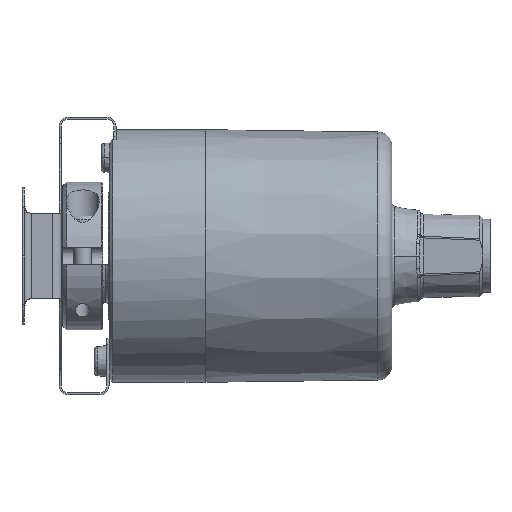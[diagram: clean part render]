
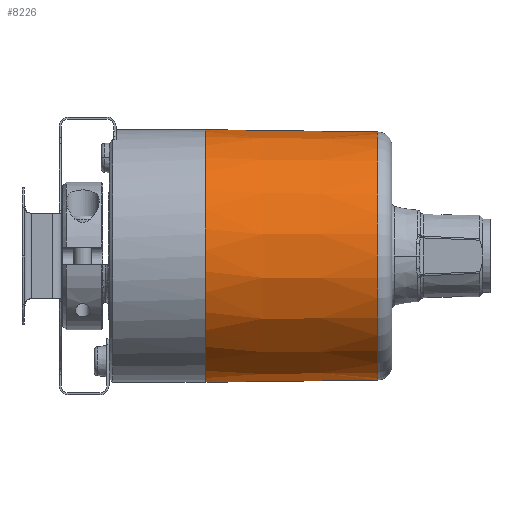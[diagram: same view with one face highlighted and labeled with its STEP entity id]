
A CAD part, front view. The second image highlights one B-rep face of the part: STEP entity #8226.
In plain terms, the highlighted conical face has half-angle 0.75 degrees and reference radius 18 mm.
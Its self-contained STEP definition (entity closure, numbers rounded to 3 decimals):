
#624 = CARTESIAN_POINT ( 'NONE',  ( 38.326, 0., 0. ) ) ;
#1559 = CARTESIAN_POINT ( 'NONE',  ( 15.487, -0.805, -17.959 ) ) ;
#2635 = VERTEX_POINT ( 'NONE', #22872 ) ;
#2730 = DIRECTION ( 'NONE',  ( 0., 0., -1. ) ) ;
#3554 = CARTESIAN_POINT ( 'NONE',  ( 15.85, 0., -17.972 ) ) ;
#3586 = CARTESIAN_POINT ( 'NONE',  ( 14.892, -1.046, -17.954 ) ) ;
#3675 = CARTESIAN_POINT ( 'NONE',  ( 15.732, -0.501, -17.967 ) ) ;
#4021 = CARTESIAN_POINT ( 'NONE',  ( 13.7, 0., 18. ) ) ;
#4261 = EDGE_CURVE ( 'NONE', #24803, #24789, #21581, .T. ) ;
#4557 = CARTESIAN_POINT ( 'NONE',  ( 14.171, -1.18, -17.955 ) ) ;
#5087 = VECTOR ( 'NONE', #11277, 1000. ) ;
#5123 = AXIS2_PLACEMENT_3D ( 'NONE', #10702, #6637, #18998 ) ;
#5557 = DIRECTION ( 'NONE',  ( 1., 0., 0. ) ) ;
#5577 = EDGE_CURVE ( 'NONE', #26195, #2635, #17426, .T. ) ;
#5599 = VECTOR ( 'NONE', #16420, 1000. ) ;
#5783 = CARTESIAN_POINT ( 'NONE',  ( 15.85, -0.129, -17.972 ) ) ;
#6250 = B_SPLINE_CURVE_WITH_KNOTS ( 'NONE', 3,
 ( #16298, #22557, #10170, #24651 ),
 .UNSPECIFIED., .F., .F.,
 ( 4, 4 ),
 ( 0., 0. ),
 .UNSPECIFIED. ) ;
#6637 = DIRECTION ( 'NONE',  ( -1., 0., 0. ) ) ;
#6787 = CARTESIAN_POINT ( 'NONE',  ( 14.713, -1.062, -17.955 ) ) ;
#6935 = CARTESIAN_POINT ( 'NONE',  ( 13.7, 0., -18. ) ) ;
#7387 = CARTESIAN_POINT ( 'NONE',  ( 13.7, 0., 18. ) ) ;
#8036 = VERTEX_POINT ( 'NONE', #22349 ) ;
#8226 = ADVANCED_FACE ( 'NONE', ( #25350 ), #13650, .T. ) ;
#8540 = EDGE_CURVE ( 'NONE', #24150, #24789, #12392, .T. ) ;
#10170 = CARTESIAN_POINT ( 'NONE',  ( 14.286, -1.099, -17.959 ) ) ;
#10702 = CARTESIAN_POINT ( 'NONE',  ( 13.7, 0., 0. ) ) ;
#10738 = CARTESIAN_POINT ( 'NONE',  ( 13.7, -1.65, -17.924 ) ) ;
#11239 = EDGE_CURVE ( 'NONE', #14424, #24150, #17197, .T. ) ;
#11277 = DIRECTION ( 'NONE',  ( -1., 0., -0.013 ) ) ;
#11723 = ORIENTED_EDGE ( 'NONE', *, *, #17179, .T. ) ;
#11938 = CARTESIAN_POINT ( 'NONE',  ( 15.022, -1.035, -17.953 ) ) ;
#12392 = B_SPLINE_CURVE_WITH_KNOTS ( 'NONE', 3,
 ( #3586, #11938, #26429, #13994, #1559, #16065, #3675, #18152, #5783, #20249 ),
 .UNSPECIFIED., .F., .F.,
 ( 4, 2, 2, 2, 4 ),
 ( 0., 0., 0.001, 0.001, 0.002 ),
 .UNSPECIFIED. ) ;
#12519 = CIRCLE ( 'NONE', #21406, 17.678 ) ;
#12920 = CARTESIAN_POINT ( 'NONE',  ( 14.357, -1.093, -17.958 ) ) ;
#13650 = CONICAL_SURFACE ( 'NONE', #5123, 18., 0.013 ) ;
#13957 = CARTESIAN_POINT ( 'NONE',  ( 38.326, 0., -17.678 ) ) ;
#13994 = CARTESIAN_POINT ( 'NONE',  ( 15.382, -0.884, -17.956 ) ) ;
#14424 = VERTEX_POINT ( 'NONE', #22044 ) ;
#14975 = CARTESIAN_POINT ( 'NONE',  ( 14.535, -1.077, -17.957 ) ) ;
#15137 = DIRECTION ( 'NONE',  ( -1., 0., 0. ) ) ;
#15285 = LINE ( 'NONE', #4021, #5599 ) ;
#15323 = AXIS2_PLACEMENT_3D ( 'NONE', #17925, #5557, #20019 ) ;
#15387 = EDGE_CURVE ( 'NONE', #24803, #8036, #12519, .T. ) ;
#15573 = EDGE_CURVE ( 'NONE', #16961, #26195, #23846, .T. ) ;
#16065 = CARTESIAN_POINT ( 'NONE',  ( 15.662, -0.613, -17.964 ) ) ;
#16155 = ORIENTED_EDGE ( 'NONE', *, *, #23771, .T. ) ;
#16298 = CARTESIAN_POINT ( 'NONE',  ( 14.171, -1.18, -17.955 ) ) ;
#16420 = DIRECTION ( 'NONE',  ( -1., 0., 0.013 ) ) ;
#16949 = CARTESIAN_POINT ( 'NONE',  ( 14.014, -1.337, -17.947 ) ) ;
#16961 = VERTEX_POINT ( 'NONE', #7387 ) ;
#17179 = EDGE_CURVE ( 'NONE', #2635, #14424, #6250, .T. ) ;
#17197 =( BOUNDED_CURVE ( )  B_SPLINE_CURVE ( 3, ( #12920, #14975, #6787, #21240 ),
 .UNSPECIFIED., .F., .F. ) 
 B_SPLINE_CURVE_WITH_KNOTS ( ( 4, 4 ),
 ( 1.661, 1.663 ),
 .UNSPECIFIED. ) 
 CURVE ( )  GEOMETRIC_REPRESENTATION_ITEM ( )  RATIONAL_B_SPLINE_CURVE ( ( 1., 1., 1., 1. ) ) 
 REPRESENTATION_ITEM ( '' )  );
#17426 =( BOUNDED_CURVE ( )  B_SPLINE_CURVE ( 3, ( #10738, #25214, #16949, #4557 ),
 .UNSPECIFIED., .F., .F. ) 
 B_SPLINE_CURVE_WITH_KNOTS ( ( 4, 4 ),
 ( 1.492, 1.518 ),
 .UNSPECIFIED. ) 
 CURVE ( )  GEOMETRIC_REPRESENTATION_ITEM ( )  RATIONAL_B_SPLINE_CURVE ( ( 1., 1., 1., 1. ) ) 
 REPRESENTATION_ITEM ( '' )  );
#17925 = CARTESIAN_POINT ( 'NONE',  ( 13.7, 0., 0. ) ) ;
#18013 = CARTESIAN_POINT ( 'NONE',  ( 14.892, -1.046, -17.954 ) ) ;
#18152 = CARTESIAN_POINT ( 'NONE',  ( 15.826, -0.26, -17.971 ) ) ;
#18473 = EDGE_LOOP ( 'NONE', ( #23702, #25130, #16155, #24486, #21441, #11723, #23689, #26067 ) ) ;
#18998 = DIRECTION ( 'NONE',  ( 0., 0., 1. ) ) ;
#20019 = DIRECTION ( 'NONE',  ( 0., 0., -1. ) ) ;
#20249 = CARTESIAN_POINT ( 'NONE',  ( 15.85, 0., -17.972 ) ) ;
#21240 = CARTESIAN_POINT ( 'NONE',  ( 14.892, -1.046, -17.954 ) ) ;
#21406 = AXIS2_PLACEMENT_3D ( 'NONE', #624, #15137, #2730 ) ;
#21441 = ORIENTED_EDGE ( 'NONE', *, *, #5577, .T. ) ;
#21581 = LINE ( 'NONE', #6935, #5087 ) ;
#22044 = CARTESIAN_POINT ( 'NONE',  ( 14.357, -1.093, -17.958 ) ) ;
#22349 = CARTESIAN_POINT ( 'NONE',  ( 38.326, 0., 17.678 ) ) ;
#22370 = CARTESIAN_POINT ( 'NONE',  ( 13.7, -1.65, -17.924 ) ) ;
#22557 = CARTESIAN_POINT ( 'NONE',  ( 14.221, -1.13, -17.958 ) ) ;
#22872 = CARTESIAN_POINT ( 'NONE',  ( 14.171, -1.18, -17.955 ) ) ;
#23689 = ORIENTED_EDGE ( 'NONE', *, *, #11239, .T. ) ;
#23702 = ORIENTED_EDGE ( 'NONE', *, *, #4261, .F. ) ;
#23771 = EDGE_CURVE ( 'NONE', #8036, #16961, #15285, .T. ) ;
#23846 = CIRCLE ( 'NONE', #15323, 18. ) ;
#24150 = VERTEX_POINT ( 'NONE', #18013 ) ;
#24486 = ORIENTED_EDGE ( 'NONE', *, *, #15573, .T. ) ;
#24651 = CARTESIAN_POINT ( 'NONE',  ( 14.357, -1.093, -17.958 ) ) ;
#24789 = VERTEX_POINT ( 'NONE', #3554 ) ;
#24803 = VERTEX_POINT ( 'NONE', #13957 ) ;
#25130 = ORIENTED_EDGE ( 'NONE', *, *, #15387, .T. ) ;
#25214 = CARTESIAN_POINT ( 'NONE',  ( 13.857, -1.493, -17.937 ) ) ;
#25350 = FACE_OUTER_BOUND ( 'NONE', #18473, .T. ) ;
#26067 = ORIENTED_EDGE ( 'NONE', *, *, #8540, .T. ) ;
#26195 = VERTEX_POINT ( 'NONE', #22370 ) ;
#26429 = CARTESIAN_POINT ( 'NONE',  ( 15.148, -0.999, -17.953 ) ) ;
